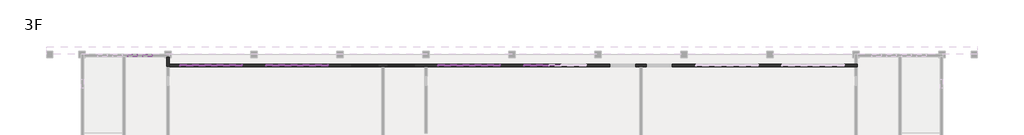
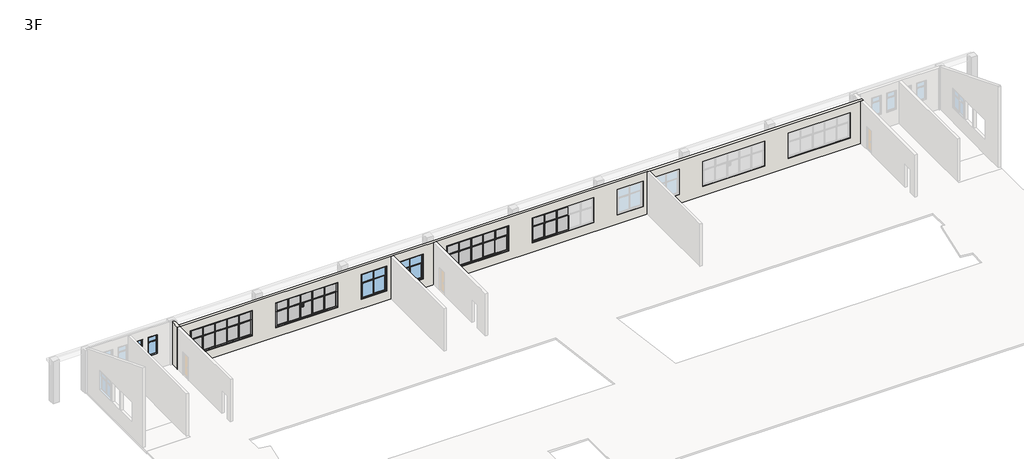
# One storey, part 5 of 9: 88 members, 29 plates, 4 windows, 2 walls.
"""IFC4 building model written with IfcOpenShell, lengths in millimetres."""

from ifc_helpers import new_model, si_unit, origin, place, context, project, spatial, faceted_brep, transform, mapped, element, save
from components import member_7564be38, member_1f4d75dd, member_0b7842ad, member_163d5e45, member_ffafc35e, member_2b011958, member_9c26cac3, member_6c42befd, member_a374fdad, plate_75e73fbb, plate_f4dba16c, plate_1cc4df2b, plate_4fa5932a, plate_00f9c624, plate_7c94d5a9, lc2_lc2_631be3da, lc4_lc4_4954e093

model = new_model("IFC4")

# Units and contexts
model_context = context("Model", 3, world=origin())
ifc_project = project(units=[si_unit("LENGTHUNIT", "METRE", prefix="MILLI")], contexts=[model_context])

# Site, building, storey
site = spatial("IfcSite", under=ifc_project)
building = spatial("IfcBuilding", under=site)
storey = spatial("IfcBuildingStorey", under=building, Name="3F", Elevation=8400.0)

# Members
placement = place(None, origin())
member_shape = member_7564be38(model_context)
element("IfcMember", 1, ObjectType="矩形竖梃 : 教学楼 – 矩形竖梃 – 100x150mm", at=placement, inside=storey, context=model_context, shape_type="MappedRepresentation", body=[
    mapped(member_shape, transform((17900.0000002, 32210.0, 11800.0), x_axis=(0.0, 0.0, 1.0), y_axis=(0.0, -1.0, 0.0), z_axis=(1.0, 0.0, 0.0))),
])
element("IfcMember", 2, ObjectType="矩形竖梃 : 教学楼 – 矩形竖梃 – 100x150mm", at=placement, inside=storey, context=model_context, shape_type="MappedRepresentation", body=[
    mapped(member_shape, transform((25899.9999995, 32210.0, 11800.0), x_axis=(0.0, 0.0, 1.0), y_axis=(0.0, -1.0, 0.0), z_axis=(1.0, 0.0, 0.0))),
])
element("IfcMember", 3, ObjectType="矩形竖梃 : 教学楼 – 矩形竖梃 – 100x150mm", at=placement, inside=storey, context=model_context, shape_type="MappedRepresentation", body=[
    mapped(member_shape, transform((41900.0000002, 32210.0, 11800.0), x_axis=(0.0, 0.0, 1.0), y_axis=(0.0, -1.0, 0.0), z_axis=(1.0, 0.0, 0.0))),
])
element("IfcMember", 4, ObjectType="矩形竖梃 : 教学楼 – 矩形竖梃 – 100x150mm", at=placement, inside=storey, context=model_context, shape_type="MappedRepresentation", body=[
    mapped(member_shape, transform((12100.0000002, 32210.0, 9300.0), x_axis=(0.0, 0.0, -1.0), y_axis=(0.0, -1.0, 0.0), z_axis=(-1.0, 0.0, 0.0))),
])
element("IfcMember", 5, ObjectType="矩形竖梃 : 教学楼 – 矩形竖梃 – 100x150mm", at=placement, inside=storey, context=model_context, shape_type="MappedRepresentation", body=[
    mapped(member_shape, transform((20099.9999995, 32210.0, 9300.0), x_axis=(0.0, 0.0, -1.0), y_axis=(0.0, -1.0, 0.0), z_axis=(-1.0, 0.0, 0.0))),
])
element("IfcMember", 6, ObjectType="矩形竖梃 : 教学楼 – 矩形竖梃 – 100x150mm", at=placement, inside=storey, context=model_context, shape_type="MappedRepresentation", body=[
    mapped(member_shape, transform((36100.0000002, 32210.0, 9300.0), x_axis=(0.0, 0.0, -1.0), y_axis=(0.0, -1.0, 0.0), z_axis=(-1.0, 0.0, 0.0))),
])
element("IfcMember", 7, ObjectType="矩形竖梃 : 教学楼 – 矩形竖梃 – 100x150mm", at=placement, inside=storey, context=model_context, shape_type="MappedRepresentation", body=[
    mapped(member_shape, transform((44099.9999995, 32210.0, 9300.0), x_axis=(0.0, 0.0, -1.0), y_axis=(0.0, -1.0, 0.0), z_axis=(-1.0, 0.0, 0.0))),
])
member_2_shape = member_1f4d75dd(model_context)
element("IfcMember", 8, ObjectType="矩形竖梃 : 教学楼 – 矩形竖梃 – 50x150mm", at=placement, inside=storey, context=model_context, shape_type="MappedRepresentation", body=[
    mapped(member_2_shape, transform((14450.0000002, 32210.0, 9400.0), x_axis=(1.0, 0.0, 0.0), y_axis=(0.0, -1.0, 0.0), z_axis=(0.0, 0.0, -1.0))),
])
element("IfcMember", 9, ObjectType="矩形竖梃 : 教学楼 – 矩形竖梃 – 50x150mm", at=placement, inside=storey, context=model_context, shape_type="MappedRepresentation", body=[
    mapped(member_2_shape, transform((15550.0000002, 32210.0, 9400.0), x_axis=(1.0, 0.0, 0.0), y_axis=(0.0, -1.0, 0.0), z_axis=(0.0, 0.0, -1.0))),
])
element("IfcMember", 10, ObjectType="矩形竖梃 : 教学楼 – 矩形竖梃 – 50x150mm", at=placement, inside=storey, context=model_context, shape_type="MappedRepresentation", body=[
    mapped(member_2_shape, transform((22449.9999995, 32210.0, 9400.0), x_axis=(1.0, 0.0, 0.0), y_axis=(0.0, -1.0, 0.0), z_axis=(0.0, 0.0, -1.0))),
])
element("IfcMember", 11, ObjectType="矩形竖梃 : 教学楼 – 矩形竖梃 – 50x150mm", at=placement, inside=storey, context=model_context, shape_type="MappedRepresentation", body=[
    mapped(member_2_shape, transform((23549.9999995, 32210.0, 9400.0), x_axis=(1.0, 0.0, 0.0), y_axis=(0.0, -1.0, 0.0), z_axis=(0.0, 0.0, -1.0))),
])
element("IfcMember", 12, ObjectType="矩形竖梃 : 教学楼 – 矩形竖梃 – 50x150mm", at=placement, inside=storey, context=model_context, shape_type="MappedRepresentation", body=[
    mapped(member_2_shape, transform((38450.0000002, 32210.0, 9400.0), x_axis=(1.0, 0.0, 0.0), y_axis=(0.0, -1.0, 0.0), z_axis=(0.0, 0.0, -1.0))),
])
element("IfcMember", 13, ObjectType="矩形竖梃 : 教学楼 – 矩形竖梃 – 50x150mm", at=placement, inside=storey, context=model_context, shape_type="MappedRepresentation", body=[
    mapped(member_2_shape, transform((39550.0000002, 32210.0, 9400.0), x_axis=(1.0, 0.0, 0.0), y_axis=(0.0, -1.0, 0.0), z_axis=(0.0, 0.0, -1.0))),
])
element("IfcMember", 14, ObjectType="矩形竖梃 : 教学楼 – 矩形竖梃 – 50x150mm", at=placement, inside=storey, context=model_context, shape_type="MappedRepresentation", body=[
    mapped(member_2_shape, transform((46449.9999995, 32210.0, 9400.0), x_axis=(1.0, 0.0, 0.0), y_axis=(0.0, -1.0, 0.0), z_axis=(0.0, 0.0, -1.0))),
])
element("IfcMember", 15, ObjectType="矩形竖梃 : 教学楼 – 矩形竖梃 – 50x150mm", at=placement, inside=storey, context=model_context, shape_type="MappedRepresentation", body=[
    mapped(member_2_shape, transform((47549.9999995, 32210.0, 9400.0), x_axis=(1.0, 0.0, 0.0), y_axis=(0.0, -1.0, 0.0), z_axis=(0.0, 0.0, -1.0))),
])
member_3_shape = member_0b7842ad(model_context)
element("IfcMember", 16, ObjectType="矩形竖梃 : 教学楼 – 矩形竖梃 – 50x150mm", at=placement, inside=storey, context=model_context, shape_type="MappedRepresentation", body=[
    mapped(member_3_shape, transform((13300.0000002, 32210.0, 10850.0), x_axis=(0.0, 0.0, 1.0), y_axis=(0.0, -1.0, 0.0), z_axis=(1.0, 0.0, 0.0))),
])
element("IfcMember", 17, ObjectType="矩形竖梃 : 教学楼 – 矩形竖梃 – 50x150mm", at=placement, inside=storey, context=model_context, shape_type="MappedRepresentation", body=[
    mapped(member_3_shape, transform((21299.9999995, 32210.0, 10850.0), x_axis=(0.0, 0.0, 1.0), y_axis=(0.0, -1.0, 0.0), z_axis=(1.0, 0.0, 0.0))),
])
element("IfcMember", 18, ObjectType="矩形竖梃 : 教学楼 – 矩形竖梃 – 50x150mm", at=placement, inside=storey, context=model_context, shape_type="MappedRepresentation", body=[
    mapped(member_3_shape, transform((37300.0000002, 32210.0, 10850.0), x_axis=(0.0, 0.0, 1.0), y_axis=(0.0, -1.0, 0.0), z_axis=(1.0, 0.0, 0.0))),
])
element("IfcMember", 19, ObjectType="矩形竖梃 : 教学楼 – 矩形竖梃 – 50x150mm", at=placement, inside=storey, context=model_context, shape_type="MappedRepresentation", body=[
    mapped(member_3_shape, transform((45299.9999995, 32210.0, 10850.0), x_axis=(0.0, 0.0, 1.0), y_axis=(0.0, -1.0, 0.0), z_axis=(1.0, 0.0, 0.0))),
])
member_4_shape = member_163d5e45(model_context)
element("IfcMember", 20, ObjectType="矩形竖梃 : 教学楼 – 矩形竖梃 – 50x150mm", at=placement, inside=storey, context=model_context, shape_type="MappedRepresentation", body=[
    mapped(member_4_shape, transform((14450.0000002, 32210.0, 10850.0), x_axis=(0.0, 0.0, 1.0), y_axis=(0.0, -1.0, 0.0), z_axis=(1.0, 0.0, 0.0))),
])
element("IfcMember", 21, ObjectType="矩形竖梃 : 教学楼 – 矩形竖梃 – 50x150mm", at=placement, inside=storey, context=model_context, shape_type="MappedRepresentation", body=[
    mapped(member_4_shape, transform((16700.0000002, 32210.0, 10850.0), x_axis=(0.0, 0.0, 1.0), y_axis=(0.0, -1.0, 0.0), z_axis=(1.0, 0.0, 0.0))),
])
element("IfcMember", 22, ObjectType="矩形竖梃 : 教学楼 – 矩形竖梃 – 50x150mm", at=placement, inside=storey, context=model_context, shape_type="MappedRepresentation", body=[
    mapped(member_4_shape, transform((22449.9999995, 32210.0, 10850.0), x_axis=(0.0, 0.0, 1.0), y_axis=(0.0, -1.0, 0.0), z_axis=(1.0, 0.0, 0.0))),
])
element("IfcMember", 23, ObjectType="矩形竖梃 : 教学楼 – 矩形竖梃 – 50x150mm", at=placement, inside=storey, context=model_context, shape_type="MappedRepresentation", body=[
    mapped(member_4_shape, transform((24699.9999995, 32210.0, 10850.0), x_axis=(0.0, 0.0, 1.0), y_axis=(0.0, -1.0, 0.0), z_axis=(1.0, 0.0, 0.0))),
])
element("IfcMember", 24, ObjectType="矩形竖梃 : 教学楼 – 矩形竖梃 – 50x150mm", at=placement, inside=storey, context=model_context, shape_type="MappedRepresentation", body=[
    mapped(member_4_shape, transform((38450.0000002, 32210.0, 10850.0), x_axis=(0.0, 0.0, 1.0), y_axis=(0.0, -1.0, 0.0), z_axis=(1.0, 0.0, 0.0))),
])
element("IfcMember", 25, ObjectType="矩形竖梃 : 教学楼 – 矩形竖梃 – 50x150mm", at=placement, inside=storey, context=model_context, shape_type="MappedRepresentation", body=[
    mapped(member_4_shape, transform((40700.0000002, 32210.0, 10850.0), x_axis=(0.0, 0.0, 1.0), y_axis=(0.0, -1.0, 0.0), z_axis=(1.0, 0.0, 0.0))),
])
element("IfcMember", 26, ObjectType="矩形竖梃 : 教学楼 – 矩形竖梃 – 50x150mm", at=placement, inside=storey, context=model_context, shape_type="MappedRepresentation", body=[
    mapped(member_4_shape, transform((46449.9999995, 32210.0, 10850.0), x_axis=(0.0, 0.0, 1.0), y_axis=(0.0, -1.0, 0.0), z_axis=(1.0, 0.0, 0.0))),
])
element("IfcMember", 27, ObjectType="矩形竖梃 : 教学楼 – 矩形竖梃 – 50x150mm", at=placement, inside=storey, context=model_context, shape_type="MappedRepresentation", body=[
    mapped(member_3_shape, transform((15550.0000002, 32210.0, 10850.0), x_axis=(0.0, 0.0, 1.0), y_axis=(0.0, -1.0, 0.0), z_axis=(1.0, 0.0, 0.0))),
])
element("IfcMember", 28, ObjectType="矩形竖梃 : 教学楼 – 矩形竖梃 – 50x150mm", at=placement, inside=storey, context=model_context, shape_type="MappedRepresentation", body=[
    mapped(member_3_shape, transform((23549.9999995, 32210.0, 10850.0), x_axis=(0.0, 0.0, 1.0), y_axis=(0.0, -1.0, 0.0), z_axis=(1.0, 0.0, 0.0))),
])
element("IfcMember", 29, ObjectType="矩形竖梃 : 教学楼 – 矩形竖梃 – 50x150mm", at=placement, inside=storey, context=model_context, shape_type="MappedRepresentation", body=[
    mapped(member_3_shape, transform((39550.0000002, 32210.0, 10850.0), x_axis=(0.0, 0.0, 1.0), y_axis=(0.0, -1.0, 0.0), z_axis=(1.0, 0.0, 0.0))),
])
element("IfcMember", 30, ObjectType="矩形竖梃 : 教学楼 – 矩形竖梃 – 50x150mm", at=placement, inside=storey, context=model_context, shape_type="MappedRepresentation", body=[
    mapped(member_3_shape, transform((17800.0000002, 32210.0, 10850.0), x_axis=(0.0, 0.0, 1.0), y_axis=(0.0, -1.0, 0.0), z_axis=(1.0, 0.0, 0.0))),
])
element("IfcMember", 31, ObjectType="矩形竖梃 : 教学楼 – 矩形竖梃 – 50x150mm", at=placement, inside=storey, context=model_context, shape_type="MappedRepresentation", body=[
    mapped(member_3_shape, transform((25799.9999995, 32210.0, 10850.0), x_axis=(0.0, 0.0, 1.0), y_axis=(0.0, -1.0, 0.0), z_axis=(1.0, 0.0, 0.0))),
])
element("IfcMember", 32, ObjectType="矩形竖梃 : 教学楼 – 矩形竖梃 – 50x150mm", at=placement, inside=storey, context=model_context, shape_type="MappedRepresentation", body=[
    mapped(member_3_shape, transform((41800.0000002, 32210.0, 10850.0), x_axis=(0.0, 0.0, 1.0), y_axis=(0.0, -1.0, 0.0), z_axis=(1.0, 0.0, 0.0))),
])
member_5_shape = member_ffafc35e(model_context)
element("IfcMember", 33, ObjectType="矩形竖梃 : 教学楼 – 矩形竖梃 – 100x150mm", at=placement, inside=storey, context=model_context, shape_type="MappedRepresentation", body=[
    mapped(member_5_shape, transform((13300.0000002, 32210.0, 9300.0), x_axis=(0.0, 0.0, -1.0), y_axis=(0.0, -1.0, 0.0), z_axis=(-1.0, 0.0, 0.0))),
])
element("IfcMember", 34, ObjectType="矩形竖梃 : 教学楼 – 矩形竖梃 – 100x150mm", at=placement, inside=storey, context=model_context, shape_type="MappedRepresentation", body=[
    mapped(member_5_shape, transform((21299.9999995, 32210.0, 9300.0), x_axis=(0.0, 0.0, -1.0), y_axis=(0.0, -1.0, 0.0), z_axis=(-1.0, 0.0, 0.0))),
])
element("IfcMember", 35, ObjectType="矩形竖梃 : 教学楼 – 矩形竖梃 – 100x150mm", at=placement, inside=storey, context=model_context, shape_type="MappedRepresentation", body=[
    mapped(member_5_shape, transform((37300.0000002, 32210.0, 9300.0), x_axis=(0.0, 0.0, -1.0), y_axis=(0.0, -1.0, 0.0), z_axis=(-1.0, 0.0, 0.0))),
])
element("IfcMember", 36, ObjectType="矩形竖梃 : 教学楼 – 矩形竖梃 – 100x150mm", at=placement, inside=storey, context=model_context, shape_type="MappedRepresentation", body=[
    mapped(member_5_shape, transform((45299.9999995, 32210.0, 9300.0), x_axis=(0.0, 0.0, -1.0), y_axis=(0.0, -1.0, 0.0), z_axis=(-1.0, 0.0, 0.0))),
])
member_6_shape = member_2b011958(model_context)
element("IfcMember", 37, ObjectType="矩形竖梃 : 教学楼 – 矩形竖梃 – 100x150mm", at=placement, inside=storey, context=model_context, shape_type="MappedRepresentation", body=[
    mapped(member_6_shape, transform((14450.0000002, 32210.0, 9300.0), x_axis=(0.0, 0.0, -1.0), y_axis=(0.0, -1.0, 0.0), z_axis=(-1.0, 0.0, 0.0))),
])
element("IfcMember", 38, ObjectType="矩形竖梃 : 教学楼 – 矩形竖梃 – 100x150mm", at=placement, inside=storey, context=model_context, shape_type="MappedRepresentation", body=[
    mapped(member_6_shape, transform((22449.9999995, 32210.0, 9300.0), x_axis=(0.0, 0.0, -1.0), y_axis=(0.0, -1.0, 0.0), z_axis=(-1.0, 0.0, 0.0))),
])
element("IfcMember", 39, ObjectType="矩形竖梃 : 教学楼 – 矩形竖梃 – 100x150mm", at=placement, inside=storey, context=model_context, shape_type="MappedRepresentation", body=[
    mapped(member_6_shape, transform((38450.0000002, 32210.0, 9300.0), x_axis=(0.0, 0.0, -1.0), y_axis=(0.0, -1.0, 0.0), z_axis=(-1.0, 0.0, 0.0))),
])
element("IfcMember", 40, ObjectType="矩形竖梃 : 教学楼 – 矩形竖梃 – 100x150mm", at=placement, inside=storey, context=model_context, shape_type="MappedRepresentation", body=[
    mapped(member_6_shape, transform((46449.9999995, 32210.0, 9300.0), x_axis=(0.0, 0.0, -1.0), y_axis=(0.0, -1.0, 0.0), z_axis=(-1.0, 0.0, 0.0))),
])
element("IfcMember", 41, ObjectType="矩形竖梃 : 教学楼 – 矩形竖梃 – 100x150mm", at=placement, inside=storey, context=model_context, shape_type="MappedRepresentation", body=[
    mapped(member_5_shape, transform((15550.0000002, 32210.0, 9300.0), x_axis=(0.0, 0.0, -1.0), y_axis=(0.0, -1.0, 0.0), z_axis=(-1.0, 0.0, 0.0))),
])
element("IfcMember", 42, ObjectType="矩形竖梃 : 教学楼 – 矩形竖梃 – 100x150mm", at=placement, inside=storey, context=model_context, shape_type="MappedRepresentation", body=[
    mapped(member_5_shape, transform((23549.9999995, 32210.0, 9300.0), x_axis=(0.0, 0.0, -1.0), y_axis=(0.0, -1.0, 0.0), z_axis=(-1.0, 0.0, 0.0))),
])
element("IfcMember", 43, ObjectType="矩形竖梃 : 教学楼 – 矩形竖梃 – 100x150mm", at=placement, inside=storey, context=model_context, shape_type="MappedRepresentation", body=[
    mapped(member_5_shape, transform((39550.0000002, 32210.0, 9300.0), x_axis=(0.0, 0.0, -1.0), y_axis=(0.0, -1.0, 0.0), z_axis=(-1.0, 0.0, 0.0))),
])
element("IfcMember", 44, ObjectType="矩形竖梃 : 教学楼 – 矩形竖梃 – 100x150mm", at=placement, inside=storey, context=model_context, shape_type="MappedRepresentation", body=[
    mapped(member_shape, transform((16700.0000002, 32210.0, 9300.0), x_axis=(0.0, 0.0, -1.0), y_axis=(0.0, -1.0, 0.0), z_axis=(-1.0, 0.0, 0.0))),
])
element("IfcMember", 45, ObjectType="矩形竖梃 : 教学楼 – 矩形竖梃 – 100x150mm", at=placement, inside=storey, context=model_context, shape_type="MappedRepresentation", body=[
    mapped(member_shape, transform((24699.9999995, 32210.0, 9300.0), x_axis=(0.0, 0.0, -1.0), y_axis=(0.0, -1.0, 0.0), z_axis=(-1.0, 0.0, 0.0))),
])
element("IfcMember", 46, ObjectType="矩形竖梃 : 教学楼 – 矩形竖梃 – 100x150mm", at=placement, inside=storey, context=model_context, shape_type="MappedRepresentation", body=[
    mapped(member_shape, transform((40700.0000002, 32210.0, 9300.0), x_axis=(0.0, 0.0, -1.0), y_axis=(0.0, -1.0, 0.0), z_axis=(-1.0, 0.0, 0.0))),
])
element("IfcMember", 47, ObjectType="矩形竖梃 : 教学楼 – 矩形竖梃 – 100x150mm", at=placement, inside=storey, context=model_context, shape_type="MappedRepresentation", body=[
    mapped(member_shape, transform((13300.0000002, 32210.0, 11800.0), x_axis=(0.0, 0.0, 1.0), y_axis=(0.0, -1.0, 0.0), z_axis=(1.0, 0.0, 0.0))),
])
element("IfcMember", 48, ObjectType="矩形竖梃 : 教学楼 – 矩形竖梃 – 100x150mm", at=placement, inside=storey, context=model_context, shape_type="MappedRepresentation", body=[
    mapped(member_shape, transform((21299.9999995, 32210.0, 11800.0), x_axis=(0.0, 0.0, 1.0), y_axis=(0.0, -1.0, 0.0), z_axis=(1.0, 0.0, 0.0))),
])
element("IfcMember", 49, ObjectType="矩形竖梃 : 教学楼 – 矩形竖梃 – 100x150mm", at=placement, inside=storey, context=model_context, shape_type="MappedRepresentation", body=[
    mapped(member_shape, transform((37300.0000002, 32210.0, 11800.0), x_axis=(0.0, 0.0, 1.0), y_axis=(0.0, -1.0, 0.0), z_axis=(1.0, 0.0, 0.0))),
])
element("IfcMember", 50, ObjectType="矩形竖梃 : 教学楼 – 矩形竖梃 – 100x150mm", at=placement, inside=storey, context=model_context, shape_type="MappedRepresentation", body=[
    mapped(member_shape, transform((45299.9999995, 32210.0, 11800.0), x_axis=(0.0, 0.0, 1.0), y_axis=(0.0, -1.0, 0.0), z_axis=(1.0, 0.0, 0.0))),
])
element("IfcMember", 51, ObjectType="矩形竖梃 : 教学楼 – 矩形竖梃 – 100x150mm", at=placement, inside=storey, context=model_context, shape_type="MappedRepresentation", body=[
    mapped(member_5_shape, transform((14450.0000002, 32210.0, 11800.0), x_axis=(0.0, 0.0, 1.0), y_axis=(0.0, -1.0, 0.0), z_axis=(1.0, 0.0, 0.0))),
])
element("IfcMember", 52, ObjectType="矩形竖梃 : 教学楼 – 矩形竖梃 – 100x150mm", at=placement, inside=storey, context=model_context, shape_type="MappedRepresentation", body=[
    mapped(member_5_shape, transform((16700.0000002, 32210.0, 11800.0), x_axis=(0.0, 0.0, 1.0), y_axis=(0.0, -1.0, 0.0), z_axis=(1.0, 0.0, 0.0))),
])
element("IfcMember", 53, ObjectType="矩形竖梃 : 教学楼 – 矩形竖梃 – 100x150mm", at=placement, inside=storey, context=model_context, shape_type="MappedRepresentation", body=[
    mapped(member_5_shape, transform((22449.9999995, 32210.0, 11800.0), x_axis=(0.0, 0.0, 1.0), y_axis=(0.0, -1.0, 0.0), z_axis=(1.0, 0.0, 0.0))),
])
element("IfcMember", 54, ObjectType="矩形竖梃 : 教学楼 – 矩形竖梃 – 100x150mm", at=placement, inside=storey, context=model_context, shape_type="MappedRepresentation", body=[
    mapped(member_5_shape, transform((24699.9999995, 32210.0, 11800.0), x_axis=(0.0, 0.0, 1.0), y_axis=(0.0, -1.0, 0.0), z_axis=(1.0, 0.0, 0.0))),
])
element("IfcMember", 55, ObjectType="矩形竖梃 : 教学楼 – 矩形竖梃 – 100x150mm", at=placement, inside=storey, context=model_context, shape_type="MappedRepresentation", body=[
    mapped(member_5_shape, transform((38450.0000002, 32210.0, 11800.0), x_axis=(0.0, 0.0, 1.0), y_axis=(0.0, -1.0, 0.0), z_axis=(1.0, 0.0, 0.0))),
])
element("IfcMember", 56, ObjectType="矩形竖梃 : 教学楼 – 矩形竖梃 – 100x150mm", at=placement, inside=storey, context=model_context, shape_type="MappedRepresentation", body=[
    mapped(member_5_shape, transform((40700.0000002, 32210.0, 11800.0), x_axis=(0.0, 0.0, 1.0), y_axis=(0.0, -1.0, 0.0), z_axis=(1.0, 0.0, 0.0))),
])
element("IfcMember", 57, ObjectType="矩形竖梃 : 教学楼 – 矩形竖梃 – 100x150mm", at=placement, inside=storey, context=model_context, shape_type="MappedRepresentation", body=[
    mapped(member_5_shape, transform((46449.9999995, 32210.0, 11800.0), x_axis=(0.0, 0.0, 1.0), y_axis=(0.0, -1.0, 0.0), z_axis=(1.0, 0.0, 0.0))),
])
element("IfcMember", 58, ObjectType="矩形竖梃 : 教学楼 – 矩形竖梃 – 100x150mm", at=placement, inside=storey, context=model_context, shape_type="MappedRepresentation", body=[
    mapped(member_6_shape, transform((15550.0000002, 32210.0, 11800.0), x_axis=(0.0, 0.0, 1.0), y_axis=(0.0, -1.0, 0.0), z_axis=(1.0, 0.0, 0.0))),
])
element("IfcMember", 59, ObjectType="矩形竖梃 : 教学楼 – 矩形竖梃 – 100x150mm", at=placement, inside=storey, context=model_context, shape_type="MappedRepresentation", body=[
    mapped(member_6_shape, transform((23549.9999995, 32210.0, 11800.0), x_axis=(0.0, 0.0, 1.0), y_axis=(0.0, -1.0, 0.0), z_axis=(1.0, 0.0, 0.0))),
])
element("IfcMember", 60, ObjectType="矩形竖梃 : 教学楼 – 矩形竖梃 – 100x150mm", at=placement, inside=storey, context=model_context, shape_type="MappedRepresentation", body=[
    mapped(member_6_shape, transform((39550.0000002, 32210.0, 11800.0), x_axis=(0.0, 0.0, 1.0), y_axis=(0.0, -1.0, 0.0), z_axis=(1.0, 0.0, 0.0))),
])
member_7_shape = member_9c26cac3(model_context)
element("IfcMember", 61, ObjectType="矩形竖梃 : 教学楼 – 矩形竖梃 – 50x150mm", at=placement, inside=storey, context=model_context, shape_type="MappedRepresentation", body=[
    mapped(member_7_shape, transform((13300.0000002, 32210.0, 10875.0), x_axis=(1.0, 0.0, 0.0), y_axis=(0.0, -1.0, 0.0), z_axis=(0.0, 0.0, -1.0))),
])
element("IfcMember", 62, ObjectType="矩形竖梃 : 教学楼 – 矩形竖梃 – 50x150mm", at=placement, inside=storey, context=model_context, shape_type="MappedRepresentation", body=[
    mapped(member_7_shape, transform((14450.0000002, 32210.0, 10875.0), x_axis=(1.0, 0.0, 0.0), y_axis=(0.0, -1.0, 0.0), z_axis=(0.0, 0.0, -1.0))),
])
element("IfcMember", 63, ObjectType="矩形竖梃 : 教学楼 – 矩形竖梃 – 50x150mm", at=placement, inside=storey, context=model_context, shape_type="MappedRepresentation", body=[
    mapped(member_7_shape, transform((15550.0000002, 32210.0, 10875.0), x_axis=(1.0, 0.0, 0.0), y_axis=(0.0, -1.0, 0.0), z_axis=(0.0, 0.0, -1.0))),
])
element("IfcMember", 64, ObjectType="矩形竖梃 : 教学楼 – 矩形竖梃 – 50x150mm", at=placement, inside=storey, context=model_context, shape_type="MappedRepresentation", body=[
    mapped(member_7_shape, transform((16700.0000002, 32210.0, 10875.0), x_axis=(1.0, 0.0, 0.0), y_axis=(0.0, -1.0, 0.0), z_axis=(0.0, 0.0, -1.0))),
])
element("IfcMember", 65, ObjectType="矩形竖梃 : 教学楼 – 矩形竖梃 – 50x150mm", at=placement, inside=storey, context=model_context, shape_type="MappedRepresentation", body=[
    mapped(member_7_shape, transform((21299.9999995, 32210.0, 10875.0), x_axis=(1.0, 0.0, 0.0), y_axis=(0.0, -1.0, 0.0), z_axis=(0.0, 0.0, -1.0))),
])
element("IfcMember", 66, ObjectType="矩形竖梃 : 教学楼 – 矩形竖梃 – 50x150mm", at=placement, inside=storey, context=model_context, shape_type="MappedRepresentation", body=[
    mapped(member_7_shape, transform((22449.9999995, 32210.0, 10875.0), x_axis=(1.0, 0.0, 0.0), y_axis=(0.0, -1.0, 0.0), z_axis=(0.0, 0.0, -1.0))),
])
element("IfcMember", 67, ObjectType="矩形竖梃 : 教学楼 – 矩形竖梃 – 50x150mm", at=placement, inside=storey, context=model_context, shape_type="MappedRepresentation", body=[
    mapped(member_7_shape, transform((23549.9999995, 32210.0, 10875.0), x_axis=(1.0, 0.0, 0.0), y_axis=(0.0, -1.0, 0.0), z_axis=(0.0, 0.0, -1.0))),
])
element("IfcMember", 68, ObjectType="矩形竖梃 : 教学楼 – 矩形竖梃 – 50x150mm", at=placement, inside=storey, context=model_context, shape_type="MappedRepresentation", body=[
    mapped(member_7_shape, transform((24699.9999995, 32210.0, 10875.0), x_axis=(1.0, 0.0, 0.0), y_axis=(0.0, -1.0, 0.0), z_axis=(0.0, 0.0, -1.0))),
])
element("IfcMember", 69, ObjectType="矩形竖梃 : 教学楼 – 矩形竖梃 – 50x150mm", at=placement, inside=storey, context=model_context, shape_type="MappedRepresentation", body=[
    mapped(member_7_shape, transform((37300.0000002, 32210.0, 10875.0), x_axis=(1.0, 0.0, 0.0), y_axis=(0.0, -1.0, 0.0), z_axis=(0.0, 0.0, -1.0))),
])
element("IfcMember", 70, ObjectType="矩形竖梃 : 教学楼 – 矩形竖梃 – 50x150mm", at=placement, inside=storey, context=model_context, shape_type="MappedRepresentation", body=[
    mapped(member_7_shape, transform((38450.0000002, 32210.0, 10875.0), x_axis=(1.0, 0.0, 0.0), y_axis=(0.0, -1.0, 0.0), z_axis=(0.0, 0.0, -1.0))),
])
element("IfcMember", 71, ObjectType="矩形竖梃 : 教学楼 – 矩形竖梃 – 50x150mm", at=placement, inside=storey, context=model_context, shape_type="MappedRepresentation", body=[
    mapped(member_7_shape, transform((39550.0000002, 32210.0, 10875.0), x_axis=(1.0, 0.0, 0.0), y_axis=(0.0, -1.0, 0.0), z_axis=(0.0, 0.0, -1.0))),
])
element("IfcMember", 72, ObjectType="矩形竖梃 : 教学楼 – 矩形竖梃 – 50x150mm", at=placement, inside=storey, context=model_context, shape_type="MappedRepresentation", body=[
    mapped(member_7_shape, transform((40700.0000002, 32210.0, 10875.0), x_axis=(1.0, 0.0, 0.0), y_axis=(0.0, -1.0, 0.0), z_axis=(0.0, 0.0, -1.0))),
])
element("IfcMember", 73, ObjectType="矩形竖梃 : 教学楼 – 矩形竖梃 – 50x150mm", at=placement, inside=storey, context=model_context, shape_type="MappedRepresentation", body=[
    mapped(member_7_shape, transform((45299.9999995, 32210.0, 10875.0), x_axis=(1.0, 0.0, 0.0), y_axis=(0.0, -1.0, 0.0), z_axis=(0.0, 0.0, -1.0))),
])
element("IfcMember", 74, ObjectType="矩形竖梃 : 教学楼 – 矩形竖梃 – 50x150mm", at=placement, inside=storey, context=model_context, shape_type="MappedRepresentation", body=[
    mapped(member_7_shape, transform((46449.9999995, 32210.0, 10875.0), x_axis=(1.0, 0.0, 0.0), y_axis=(0.0, -1.0, 0.0), z_axis=(0.0, 0.0, -1.0))),
])
member_8_shape = member_6c42befd(model_context)
element("IfcMember", 75, ObjectType="矩形竖梃 : 教学楼 – 矩形竖梃 – 100x150mm", at=placement, inside=storey, context=model_context, shape_type="MappedRepresentation", body=[
    mapped(member_8_shape, transform((12100.0000002, 32210.0, 11700.0), x_axis=(-1.0, 0.0, 0.0), y_axis=(0.0, -1.0, 0.0), z_axis=(0.0, 0.0, 1.0))),
])
element("IfcMember", 76, ObjectType="矩形竖梃 : 教学楼 – 矩形竖梃 – 100x150mm", at=placement, inside=storey, context=model_context, shape_type="MappedRepresentation", body=[
    mapped(member_8_shape, transform((20099.9999995, 32210.0, 11700.0), x_axis=(-1.0, 0.0, 0.0), y_axis=(0.0, -1.0, 0.0), z_axis=(0.0, 0.0, 1.0))),
])
element("IfcMember", 77, ObjectType="矩形竖梃 : 教学楼 – 矩形竖梃 – 100x150mm", at=placement, inside=storey, context=model_context, shape_type="MappedRepresentation", body=[
    mapped(member_8_shape, transform((36100.0000002, 32210.0, 11700.0), x_axis=(-1.0, 0.0, 0.0), y_axis=(0.0, -1.0, 0.0), z_axis=(0.0, 0.0, 1.0))),
])
element("IfcMember", 78, ObjectType="矩形竖梃 : 教学楼 – 矩形竖梃 – 100x150mm", at=placement, inside=storey, context=model_context, shape_type="MappedRepresentation", body=[
    mapped(member_8_shape, transform((44099.9999995, 32210.0, 11700.0), x_axis=(-1.0, 0.0, 0.0), y_axis=(0.0, -1.0, 0.0), z_axis=(0.0, 0.0, 1.0))),
])
member_9_shape = member_a374fdad(model_context)
element("IfcMember", 79, ObjectType="矩形竖梃 : 教学楼 – 矩形竖梃 – 100x150mm", at=placement, inside=storey, context=model_context, shape_type="MappedRepresentation", body=[
    mapped(member_9_shape, transform((17900.0000002, 32210.0, 9400.0), x_axis=(1.0, 0.0, 0.0), y_axis=(0.0, -1.0, 0.0), z_axis=(0.0, 0.0, -1.0))),
])
element("IfcMember", 80, ObjectType="矩形竖梃 : 教学楼 – 矩形竖梃 – 100x150mm", at=placement, inside=storey, context=model_context, shape_type="MappedRepresentation", body=[
    mapped(member_9_shape, transform((25899.9999995, 32210.0, 9400.0), x_axis=(1.0, 0.0, 0.0), y_axis=(0.0, -1.0, 0.0), z_axis=(0.0, 0.0, -1.0))),
])
element("IfcMember", 81, ObjectType="矩形竖梃 : 教学楼 – 矩形竖梃 – 100x150mm", at=placement, inside=storey, context=model_context, shape_type="MappedRepresentation", body=[
    mapped(member_9_shape, transform((41900.0000002, 32210.0, 9400.0), x_axis=(1.0, 0.0, 0.0), y_axis=(0.0, -1.0, 0.0), z_axis=(0.0, 0.0, -1.0))),
])
element("IfcMember", 82, ObjectType="矩形竖梃 : 教学楼 – 矩形竖梃 – 100x150mm", at=placement, inside=storey, context=model_context, shape_type="MappedRepresentation", body=[
    mapped(member_8_shape, transform((17900.0000002, 32210.0, 10850.0), x_axis=(1.0, 0.0, 0.0), y_axis=(0.0, -1.0, 0.0), z_axis=(0.0, 0.0, -1.0))),
])
element("IfcMember", 83, ObjectType="矩形竖梃 : 教学楼 – 矩形竖梃 – 100x150mm", at=placement, inside=storey, context=model_context, shape_type="MappedRepresentation", body=[
    mapped(member_8_shape, transform((25899.9999995, 32210.0, 10850.0), x_axis=(1.0, 0.0, 0.0), y_axis=(0.0, -1.0, 0.0), z_axis=(0.0, 0.0, -1.0))),
])
element("IfcMember", 84, ObjectType="矩形竖梃 : 教学楼 – 矩形竖梃 – 100x150mm", at=placement, inside=storey, context=model_context, shape_type="MappedRepresentation", body=[
    mapped(member_8_shape, transform((41900.0000002, 32210.0, 10850.0), x_axis=(1.0, 0.0, 0.0), y_axis=(0.0, -1.0, 0.0), z_axis=(0.0, 0.0, -1.0))),
])
element("IfcMember", 85, ObjectType="矩形竖梃 : 教学楼 – 矩形竖梃 – 100x150mm", at=placement, inside=storey, context=model_context, shape_type="MappedRepresentation", body=[
    mapped(member_9_shape, transform((12100.0000002, 32210.0, 10850.0), x_axis=(-1.0, 0.0, 0.0), y_axis=(0.0, -1.0, 0.0), z_axis=(0.0, 0.0, 1.0))),
])
element("IfcMember", 86, ObjectType="矩形竖梃 : 教学楼 – 矩形竖梃 – 100x150mm", at=placement, inside=storey, context=model_context, shape_type="MappedRepresentation", body=[
    mapped(member_9_shape, transform((20099.9999995, 32210.0, 10850.0), x_axis=(-1.0, 0.0, 0.0), y_axis=(0.0, -1.0, 0.0), z_axis=(0.0, 0.0, 1.0))),
])
element("IfcMember", 87, ObjectType="矩形竖梃 : 教学楼 – 矩形竖梃 – 100x150mm", at=placement, inside=storey, context=model_context, shape_type="MappedRepresentation", body=[
    mapped(member_9_shape, transform((36100.0000002, 32210.0, 10850.0), x_axis=(-1.0, 0.0, 0.0), y_axis=(0.0, -1.0, 0.0), z_axis=(0.0, 0.0, 1.0))),
])
element("IfcMember", 88, ObjectType="矩形竖梃 : 教学楼 – 矩形竖梃 – 100x150mm", at=placement, inside=storey, context=model_context, shape_type="MappedRepresentation", body=[
    mapped(member_9_shape, transform((44099.9999995, 32210.0, 10850.0), x_axis=(-1.0, 0.0, 0.0), y_axis=(0.0, -1.0, 0.0), z_axis=(0.0, 0.0, 1.0))),
])

# Plates
plate_shape = plate_75e73fbb(model_context)
element("IfcPlate", 89, ObjectType="教学楼 - 窗嵌板：双扇推拉窗 : 教学楼 - 窗嵌板：双扇推拉窗", at=placement, inside=storey, context=model_context, shape_type="MappedRepresentation", body=[
    mapped(plate_shape, transform((13312.5000002, 32210.0, 9400.0), x_axis=(1.0, 0.0, 0.0), y_axis=(0.0, 1.0, 0.0), z_axis=(0.0, 0.0, 1.0))),
])
element("IfcPlate", 90, ObjectType="教学楼 - 窗嵌板：双扇推拉窗 : 教学楼 - 窗嵌板：双扇推拉窗", at=placement, inside=storey, context=model_context, shape_type="MappedRepresentation", body=[
    mapped(plate_shape, transform((21312.4999995, 32210.0, 9400.0), x_axis=(1.0, 0.0, 0.0), y_axis=(0.0, 1.0, 0.0), z_axis=(0.0, 0.0, 1.0))),
])
element("IfcPlate", 91, ObjectType="教学楼 - 窗嵌板：双扇推拉窗 : 教学楼 - 窗嵌板：双扇推拉窗", at=placement, inside=storey, context=model_context, shape_type="MappedRepresentation", body=[
    mapped(plate_shape, transform((37312.5000002, 32210.0, 9400.0), x_axis=(1.0, 0.0, 0.0), y_axis=(0.0, 1.0, 0.0), z_axis=(0.0, 0.0, 1.0))),
])
element("IfcPlate", 92, ObjectType="教学楼 - 窗嵌板：双扇推拉窗 : 教学楼 - 窗嵌板：双扇推拉窗", at=placement, inside=storey, context=model_context, shape_type="MappedRepresentation", body=[
    mapped(plate_shape, transform((45312.4999995, 32210.0, 9400.0), x_axis=(1.0, 0.0, 0.0), y_axis=(0.0, 1.0, 0.0), z_axis=(0.0, 0.0, 1.0))),
])
plate_2_shape = plate_f4dba16c(model_context)
element("IfcPlate", 93, ObjectType="系统嵌板 : 玻璃", at=placement, inside=storey, context=model_context, shape_type="MappedRepresentation", body=[
    mapped(plate_2_shape, transform((15000.0000002, 32210.0, 9400.0), x_axis=(1.0, 0.0, 0.0), y_axis=(0.0, 1.0, 0.0), z_axis=(0.0, 0.0, 1.0))),
])
element("IfcPlate", 94, ObjectType="系统嵌板 : 玻璃", at=placement, inside=storey, context=model_context, shape_type="MappedRepresentation", body=[
    mapped(plate_2_shape, transform((39000.0000002, 32210.0, 9400.0), x_axis=(1.0, 0.0, 0.0), y_axis=(0.0, 1.0, 0.0), z_axis=(0.0, 0.0, 1.0))),
])
element("IfcPlate", 95, ObjectType="系统嵌板 : 玻璃", at=placement, inside=storey, context=model_context, shape_type="MappedRepresentation", body=[
    mapped(plate_2_shape, transform((46999.9999995, 32210.0, 9400.0), x_axis=(1.0, 0.0, 0.0), y_axis=(0.0, 1.0, 0.0), z_axis=(0.0, 0.0, 1.0))),
])
element("IfcPlate", 96, ObjectType="教学楼 - 窗嵌板：双扇推拉窗 : 教学楼 - 窗嵌板：双扇推拉窗", at=placement, inside=storey, context=model_context, shape_type="MappedRepresentation", body=[
    mapped(plate_shape, transform((16687.5000002, 32210.0, 9400.0), x_axis=(1.0, 0.0, 0.0), y_axis=(0.0, 1.0, 0.0), z_axis=(0.0, 0.0, 1.0))),
])
element("IfcPlate", 97, ObjectType="教学楼 - 窗嵌板：双扇推拉窗 : 教学楼 - 窗嵌板：双扇推拉窗", at=placement, inside=storey, context=model_context, shape_type="MappedRepresentation", body=[
    mapped(plate_shape, transform((24687.4999995, 32210.0, 9400.0), x_axis=(1.0, 0.0, 0.0), y_axis=(0.0, 1.0, 0.0), z_axis=(0.0, 0.0, 1.0))),
])
element("IfcPlate", 98, ObjectType="教学楼 - 窗嵌板：双扇推拉窗 : 教学楼 - 窗嵌板：双扇推拉窗", at=placement, inside=storey, context=model_context, shape_type="MappedRepresentation", body=[
    mapped(plate_shape, transform((40687.5000002, 32210.0, 9400.0), x_axis=(1.0, 0.0, 0.0), y_axis=(0.0, 1.0, 0.0), z_axis=(0.0, 0.0, 1.0))),
])
plate_3_shape = plate_1cc4df2b(model_context)
element("IfcPlate", 99, ObjectType="系统嵌板 : 玻璃", at=placement, inside=storey, context=model_context, shape_type="MappedRepresentation", body=[
    mapped(plate_3_shape, transform((12737.5000002, 32210.0, 10875.0), x_axis=(1.0, 0.0, 0.0), y_axis=(0.0, 1.0, 0.0), z_axis=(0.0, 0.0, 1.0))),
])
element("IfcPlate", 100, ObjectType="系统嵌板 : 玻璃", at=placement, inside=storey, context=model_context, shape_type="MappedRepresentation", body=[
    mapped(plate_3_shape, transform((17262.5000002, 32210.0, 10875.0), x_axis=(1.0, 0.0, 0.0), y_axis=(0.0, 1.0, 0.0), z_axis=(0.0, 0.0, 1.0))),
])
element("IfcPlate", 101, ObjectType="系统嵌板 : 玻璃", at=placement, inside=storey, context=model_context, shape_type="MappedRepresentation", body=[
    mapped(plate_3_shape, transform((20737.4999995, 32210.0, 10875.0), x_axis=(1.0, 0.0, 0.0), y_axis=(0.0, 1.0, 0.0), z_axis=(0.0, 0.0, 1.0))),
])
element("IfcPlate", 102, ObjectType="系统嵌板 : 玻璃", at=placement, inside=storey, context=model_context, shape_type="MappedRepresentation", body=[
    mapped(plate_3_shape, transform((25262.4999995, 32210.0, 10875.0), x_axis=(1.0, 0.0, 0.0), y_axis=(0.0, 1.0, 0.0), z_axis=(0.0, 0.0, 1.0))),
])
element("IfcPlate", 103, ObjectType="系统嵌板 : 玻璃", at=placement, inside=storey, context=model_context, shape_type="MappedRepresentation", body=[
    mapped(plate_3_shape, transform((36737.5000002, 32210.0, 10875.0), x_axis=(1.0, 0.0, 0.0), y_axis=(0.0, 1.0, 0.0), z_axis=(0.0, 0.0, 1.0))),
])
element("IfcPlate", 104, ObjectType="系统嵌板 : 玻璃", at=placement, inside=storey, context=model_context, shape_type="MappedRepresentation", body=[
    mapped(plate_3_shape, transform((41262.5000002, 32210.0, 10875.0), x_axis=(1.0, 0.0, 0.0), y_axis=(0.0, 1.0, 0.0), z_axis=(0.0, 0.0, 1.0))),
])
element("IfcPlate", 105, ObjectType="系统嵌板 : 玻璃", at=placement, inside=storey, context=model_context, shape_type="MappedRepresentation", body=[
    mapped(plate_3_shape, transform((44737.4999995, 32210.0, 10875.0), x_axis=(1.0, 0.0, 0.0), y_axis=(0.0, 1.0, 0.0), z_axis=(0.0, 0.0, 1.0))),
])
plate_4_shape = plate_4fa5932a(model_context)
element("IfcPlate", 106, ObjectType="系统嵌板 : 玻璃", at=placement, inside=storey, context=model_context, shape_type="MappedRepresentation", body=[
    mapped(plate_4_shape, transform((13875.0000002, 32210.0, 10875.0), x_axis=(1.0, 0.0, 0.0), y_axis=(0.0, 1.0, 0.0), z_axis=(0.0, 0.0, 1.0))),
])
element("IfcPlate", 107, ObjectType="系统嵌板 : 玻璃", at=placement, inside=storey, context=model_context, shape_type="MappedRepresentation", body=[
    mapped(plate_4_shape, transform((16125.0000002, 32210.0, 10875.0), x_axis=(1.0, 0.0, 0.0), y_axis=(0.0, 1.0, 0.0), z_axis=(0.0, 0.0, 1.0))),
])
element("IfcPlate", 108, ObjectType="系统嵌板 : 玻璃", at=placement, inside=storey, context=model_context, shape_type="MappedRepresentation", body=[
    mapped(plate_4_shape, transform((21874.9999995, 32210.0, 10875.0), x_axis=(1.0, 0.0, 0.0), y_axis=(0.0, 1.0, 0.0), z_axis=(0.0, 0.0, 1.0))),
])
element("IfcPlate", 109, ObjectType="系统嵌板 : 玻璃", at=placement, inside=storey, context=model_context, shape_type="MappedRepresentation", body=[
    mapped(plate_4_shape, transform((24124.9999995, 32210.0, 10875.0), x_axis=(1.0, 0.0, 0.0), y_axis=(0.0, 1.0, 0.0), z_axis=(0.0, 0.0, 1.0))),
])
element("IfcPlate", 110, ObjectType="系统嵌板 : 玻璃", at=placement, inside=storey, context=model_context, shape_type="MappedRepresentation", body=[
    mapped(plate_4_shape, transform((37875.0000002, 32210.0, 10875.0), x_axis=(1.0, 0.0, 0.0), y_axis=(0.0, 1.0, 0.0), z_axis=(0.0, 0.0, 1.0))),
])
element("IfcPlate", 111, ObjectType="系统嵌板 : 玻璃", at=placement, inside=storey, context=model_context, shape_type="MappedRepresentation", body=[
    mapped(plate_4_shape, transform((40125.0000002, 32210.0, 10875.0), x_axis=(1.0, 0.0, 0.0), y_axis=(0.0, 1.0, 0.0), z_axis=(0.0, 0.0, 1.0))),
])
element("IfcPlate", 112, ObjectType="系统嵌板 : 玻璃", at=placement, inside=storey, context=model_context, shape_type="MappedRepresentation", body=[
    mapped(plate_4_shape, transform((45874.9999995, 32210.0, 10875.0), x_axis=(1.0, 0.0, 0.0), y_axis=(0.0, 1.0, 0.0), z_axis=(0.0, 0.0, 1.0))),
])
plate_5_shape = plate_00f9c624(model_context)
element("IfcPlate", 113, ObjectType="系统嵌板 : 玻璃", at=placement, inside=storey, context=model_context, shape_type="MappedRepresentation", body=[
    mapped(plate_5_shape, transform((15000.0000002, 32210.0, 10875.0), x_axis=(1.0, 0.0, 0.0), y_axis=(0.0, 1.0, 0.0), z_axis=(0.0, 0.0, 1.0))),
])
element("IfcPlate", 114, ObjectType="系统嵌板 : 玻璃", at=placement, inside=storey, context=model_context, shape_type="MappedRepresentation", body=[
    mapped(plate_5_shape, transform((22999.9999995, 32210.0, 10875.0), x_axis=(1.0, 0.0, 0.0), y_axis=(0.0, 1.0, 0.0), z_axis=(0.0, 0.0, 1.0))),
])
element("IfcPlate", 115, ObjectType="系统嵌板 : 玻璃", at=placement, inside=storey, context=model_context, shape_type="MappedRepresentation", body=[
    mapped(plate_5_shape, transform((39000.0000002, 32210.0, 10875.0), x_axis=(1.0, 0.0, 0.0), y_axis=(0.0, 1.0, 0.0), z_axis=(0.0, 0.0, 1.0))),
])
element("IfcPlate", 116, ObjectType="系统嵌板 : 玻璃", at=placement, inside=storey, context=model_context, shape_type="MappedRepresentation", body=[
    mapped(plate_5_shape, transform((46999.9999995, 32210.0, 10875.0), x_axis=(1.0, 0.0, 0.0), y_axis=(0.0, 1.0, 0.0), z_axis=(0.0, 0.0, 1.0))),
])
plate_6_shape = plate_7c94d5a9(model_context)
element("IfcPlate", 117, ObjectType="教学楼 - 窗嵌板：外贴消防通道 : 教学楼 - 窗嵌板：外贴消防通道", at=placement, inside=storey, context=model_context, shape_type="MappedRepresentation", body=[
    mapped(plate_6_shape, transform((22999.9999995, 32210.0, 9400.0), x_axis=(1.0, 0.0, 0.0), y_axis=(0.0, 1.0, 0.0), z_axis=(0.0, 0.0, 1.0))),
])

# Walls
element("IfcWall", 118, ObjectType="教学楼 – 饰面砖外墙 – 200mm", at=placement, inside=storey, context=model_context, shape_type="Brep", body=[
    faceted_brep([(10883.0, 32982.6954639, 8400.0), (10883.0, 32900.0, 8400.0), (10883.0, 32075.0, 8400.0), (10883.0, 32075.0, 12600.0), (10883.0, 32900.0, 12600.0), (10883.0, 32982.6954639, 12600.0), (11133.0, 32982.6954639, 8400.0), (11133.0, 32982.6954639, 12600.0), (11133.0, 32900.0, 12600.0), (11133.0, 32325.0, 12600.0), (11133.0, 32075.0, 12600.0), (11133.0, 32075.0, 8400.0), (11133.0, 32325.0, 8400.0), (11133.0, 32900.0, 8400.0), (11117.0, 32075.0, 8400.0), (11117.0, 32075.0, 12600.0)], [[[0, 1, 2, 3, 4, 5]], [[6, 7, 8, 9, 10, 11, 12, 13]], [[2, 1, 0, 6, 13, 12, 11, 14]], [[5, 4, 3, 15, 10, 9, 8, 7]], [[0, 5, 7, 6]], [[3, 2, 14, 11, 10, 15]]]),
])
element("IfcWall", 119, ObjectType="教学楼 – 饰面砖外墙 – 200mm", at=placement, inside=storey, context=model_context, shape_type="Brep", body=[
    faceted_brep([(11133.0, 32075.0, 8400.0), (30883.0000029, 32075.0, 8400.0), (31117.0000029, 32075.0, 8400.0), (34883.0, 32075.0, 8400.0), (35117.0, 32075.0, 8400.0), (54883.0000001, 32075.0, 8400.0), (55117.0000001, 32075.0, 8400.0), (74883.0, 32075.0, 8400.0), (75117.0, 32075.0, 8400.0), (75117.0, 32075.0, 12600.0), (74883.0, 32075.0, 12600.0), (55117.0000001, 32075.0, 12600.0), (54883.0000001, 32075.0, 12600.0), (35117.0, 32075.0, 12600.0), (34883.0, 32075.0, 12600.0), (31117.0000029, 32075.0, 12600.0), (30883.0000029, 32075.0, 12600.0), (11133.0, 32075.0, 12600.0), (68099.9999995, 32075.0, 9300.0), (68099.9999995, 32075.0, 11800.0), (73899.9999995, 32075.0, 11800.0), (73899.9999995, 32075.0, 9300.0), (60100.0000002, 32075.0, 9300.0), (60100.0000002, 32075.0, 11800.0), (65900.0000002, 32075.0, 11800.0), (65900.0000002, 32075.0, 9300.0), (44099.9999995, 32075.0, 9300.0), (44099.9999995, 32075.0, 11800.0), (49899.9999995, 32075.0, 11800.0), (49899.9999995, 32075.0, 9300.0), (36100.0000002, 32075.0, 9300.0), (36100.0000002, 32075.0, 11800.0), (41900.0000002, 32075.0, 11800.0), (41900.0000002, 32075.0, 9300.0), (12100.0000002, 32075.0, 9300.0), (12100.0000002, 32075.0, 11800.0), (17900.0000002, 32075.0, 11800.0), (17900.0000002, 32075.0, 9300.0), (20099.9999995, 32075.0, 9300.0), (20099.9999995, 32075.0, 11800.0), (25899.9999995, 32075.0, 11800.0), (25899.9999995, 32075.0, 9300.0), (55500.0, 32075.0, 9300.0), (55500.0, 32075.0, 11800.0), (57900.0, 32075.0, 11800.0), (57900.0, 32075.0, 9300.0), (54500.0000067, 32075.0, 11800.0), (54500.0000067, 32075.0, 9300.0), (52100.0000067, 32075.0, 9300.0), (52100.0000067, 32075.0, 11800.0), (33900.0000018, 32075.0, 11800.0), (33900.0000018, 32075.0, 9300.0), (31500.0000018, 32075.0, 9300.0), (31500.0000018, 32075.0, 11800.0), (28099.9999993, 32075.0, 9300.0), (28099.9999993, 32075.0, 11800.0), (30499.9999993, 32075.0, 11800.0), (30499.9999993, 32075.0, 9300.0), (75117.0, 32325.0, 8400.0), (74867.0, 32325.0, 8400.0), (11133.0, 32325.0, 8400.0), (11133.0, 32325.0, 12600.0), (74867.0, 32325.0, 12600.0), (75117.0, 32325.0, 12600.0), (68099.9999995, 32325.0, 11800.0), (68099.9999995, 32325.0, 9300.0), (73899.9999995, 32325.0, 9300.0), (73899.9999995, 32325.0, 11800.0), (60100.0000002, 32325.0, 11800.0), (60100.0000002, 32325.0, 9300.0), (65900.0000002, 32325.0, 9300.0), (65900.0000002, 32325.0, 11800.0), (44099.9999995, 32325.0, 11800.0), (44099.9999995, 32325.0, 9300.0), (49899.9999995, 32325.0, 9300.0), (49899.9999995, 32325.0, 11800.0), (36100.0000002, 32325.0, 11800.0), (36100.0000002, 32325.0, 9300.0), (41900.0000002, 32325.0, 9300.0), (41900.0000002, 32325.0, 11800.0), (12100.0000002, 32325.0, 11800.0), (12100.0000002, 32325.0, 9300.0), (17900.0000002, 32325.0, 9300.0), (17900.0000002, 32325.0, 11800.0), (20099.9999995, 32325.0, 11800.0), (20099.9999995, 32325.0, 9300.0), (25899.9999995, 32325.0, 9300.0), (25899.9999995, 32325.0, 11800.0), (55500.0, 32325.0, 11800.0), (55500.0, 32325.0, 9300.0), (57900.0, 32325.0, 9300.0), (57900.0, 32325.0, 11800.0), (54500.0000067, 32325.0, 9300.0), (54500.0000067, 32325.0, 11800.0), (52100.0000067, 32325.0, 11800.0), (52100.0000067, 32325.0, 9300.0), (33900.0000018, 32325.0, 9300.0), (33900.0000018, 32325.0, 11800.0), (31500.0000018, 32325.0, 11800.0), (31500.0000018, 32325.0, 9300.0), (28099.9999993, 32325.0, 11800.0), (28099.9999993, 32325.0, 9300.0), (30499.9999993, 32325.0, 9300.0), (30499.9999993, 32325.0, 11800.0)], [[[0, 1, 2, 3, 4, 5, 6, 7, 8, 9, 10, 11, 12, 13, 14, 15, 16, 17], [18, 19, 20, 21], [22, 23, 24, 25], [26, 27, 28, 29], [30, 31, 32, 33], [34, 35, 36, 37], [38, 39, 40, 41], [42, 43, 44, 45], [46, 47, 48, 49], [50, 51, 52, 53], [54, 55, 56, 57]], [[58, 59, 60, 61, 62, 63], [64, 65, 66, 67], [68, 69, 70, 71], [72, 73, 74, 75], [76, 77, 78, 79], [80, 81, 82, 83], [84, 85, 86, 87], [88, 89, 90, 91], [92, 93, 94, 95], [96, 97, 98, 99], [100, 101, 102, 103]], [[8, 7, 6, 5, 4, 3, 2, 1, 0, 60, 59, 58]], [[17, 16, 15, 14, 13, 12, 11, 10, 9, 63, 62, 61]], [[0, 17, 61, 60]], [[9, 8, 58, 63]], [[18, 65, 64, 19]], [[19, 64, 67, 20]], [[20, 67, 66, 21]], [[65, 18, 21, 66]], [[22, 69, 68, 23]], [[23, 68, 71, 24]], [[24, 71, 70, 25]], [[69, 22, 25, 70]], [[26, 73, 72, 27]], [[27, 72, 75, 28]], [[28, 75, 74, 29]], [[73, 26, 29, 74]], [[30, 77, 76, 31]], [[31, 76, 79, 32]], [[32, 79, 78, 33]], [[77, 30, 33, 78]], [[34, 81, 80, 35]], [[35, 80, 83, 36]], [[36, 83, 82, 37]], [[81, 34, 37, 82]], [[38, 85, 84, 39]], [[39, 84, 87, 40]], [[40, 87, 86, 41]], [[85, 38, 41, 86]], [[43, 42, 89, 88]], [[44, 43, 88, 91]], [[45, 44, 91, 90]], [[42, 45, 90, 89]], [[93, 92, 47, 46]], [[94, 93, 46, 49]], [[95, 94, 49, 48]], [[92, 95, 48, 47]], [[97, 96, 51, 50]], [[98, 97, 50, 53]], [[99, 98, 53, 52]], [[96, 99, 52, 51]], [[55, 54, 101, 100]], [[56, 55, 100, 103]], [[57, 56, 103, 102]], [[54, 57, 102, 101]]]),
])

# Windows
lc2_lc2_shape = lc2_lc2_631be3da(model_context)
element("IfcWindow", 120, ObjectType="LC2 : LC2", at=placement, inside=storey, context=model_context, shape_type="MappedRepresentation", body=[
    mapped(lc2_lc2_shape, transform((7699.9999993, 33107.6954639, 8400.0), x_axis=(-1.0, 0.0, 0.0), y_axis=(0.0, -1.0, 0.0), z_axis=(0.0, 0.0, 1.0))),
])
element("IfcWindow", 121, ObjectType="LC2 : LC2", at=placement, inside=storey, context=model_context, shape_type="MappedRepresentation", body=[
    mapped(lc2_lc2_shape, transform((9099.9999969, 33107.6954639, 8400.0), x_axis=(-1.0, 0.0, 0.0), y_axis=(0.0, -1.0, 0.0), z_axis=(0.0, 0.0, 1.0))),
])
lc4_lc4_shape = lc4_lc4_4954e093(model_context)
element("IfcWindow", 122, ObjectType="LC4 : LC4", at=placement, inside=storey, context=model_context, shape_type="MappedRepresentation", body=[
    mapped(lc4_lc4_shape, transform((29299.9999993, 32191.3011339, 8400.0), x_axis=(1.0, 0.0, 0.0), y_axis=(0.0, 1.0, 0.0), z_axis=(0.0, 0.0, 1.0))),
])
element("IfcWindow", 123, ObjectType="LC4 : LC4", at=placement, inside=storey, context=model_context, shape_type="MappedRepresentation", body=[
    mapped(lc4_lc4_shape, transform((32700.0000018, 32208.6988661, 8400.0), x_axis=(-1.0, 0.0, 0.0), y_axis=(0.0, -1.0, 0.0), z_axis=(0.0, 0.0, 1.0))),
])

save(model, "model.ifc")
